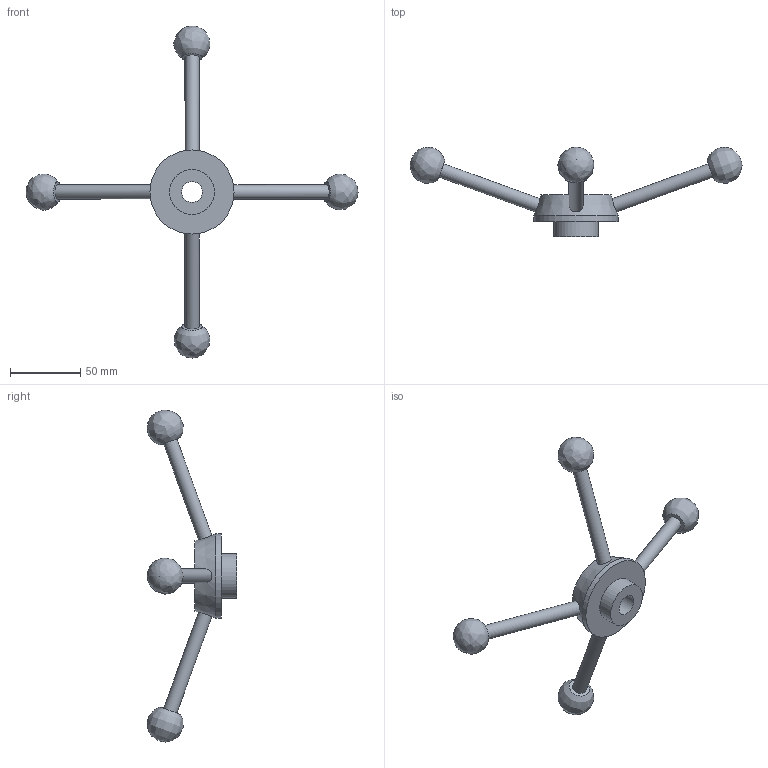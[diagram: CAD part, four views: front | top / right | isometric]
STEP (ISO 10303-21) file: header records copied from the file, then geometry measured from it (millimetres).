
FILE_DESCRIPTION( ( 'STEP AP203' ), '1' );
FILE_NAME( 'C:/Temp/Ganter_Step_05_03_2020/data/2_1/gn_213/gn_213_b/Turret lever GN 213-60-B15.stp', '2020-03-05T11:50:58', ( 'License CC BY-ND 4.0' ), ( 'CADENAS' ), ' ', 'PARTsolutions', ' ' );
FILE_SCHEMA( ( 'CONFIG_CONTROL_DESIGN' ) );
Length unit declared in the file: millimetre
Products named in the file (1): _Turret lever GN 213-60-B15
Bounding box: 236.89 x 64 x 236.89 mm (x, y, z)
Volume: 108351.1 mm3; surface area: 27257.7 mm2
Topology: 1 solids, 1 shells, 19 faces, 42 edges, 29 vertices
Faces by surface type: cylinder 7, plane 7, bspline 4, cone 1
Full cylindrical faces by diameter (mm): 10 x4, 15 x1, 32 x1, 60 x1
Entity records: 816 total; most frequent: CARTESIAN_POINT 458, DIRECTION 62, EDGE_LOOP 38, ORIENTED_EDGE 38, AXIS2_PLACEMENT_3D 31, FACE_OUTER_BOUND 26, VERTEX_POINT 23, ADVANCED_FACE 19
